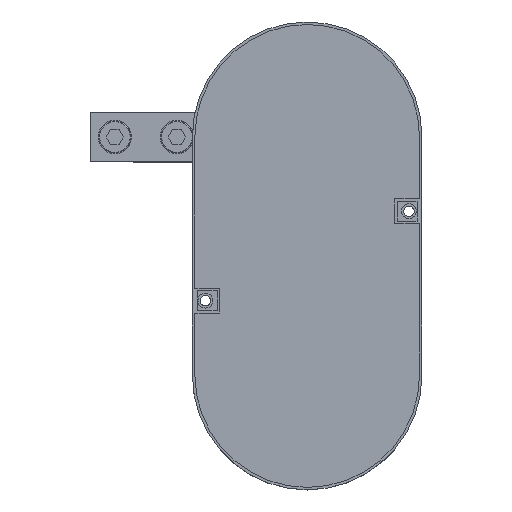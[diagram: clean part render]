
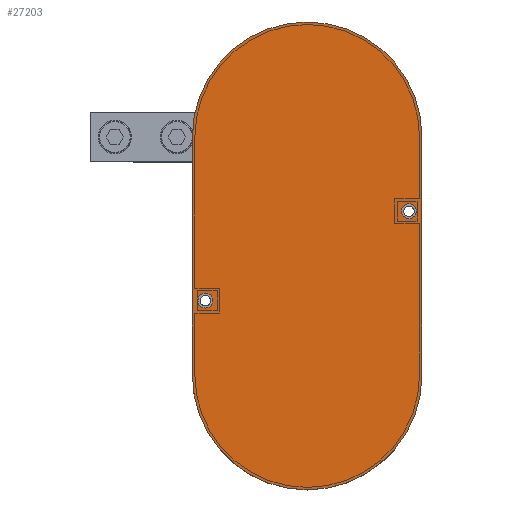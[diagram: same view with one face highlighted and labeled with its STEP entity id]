
A CAD part, top view. The second image highlights one B-rep face of the part: STEP entity #27203.
In plain terms, the highlighted planar face has unit normal (0, 0, 1) as drawn and (0, 0, -1) by its records, which use the part's own axes.
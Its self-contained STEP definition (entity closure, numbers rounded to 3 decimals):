
#126 = AXIS2_PLACEMENT_3D ( 'NONE', #36599, #48271, #25117 ) ;
#349 = CARTESIAN_POINT ( 'NONE',  ( 44., -66., 0. ) ) ;
#1128 = EDGE_CURVE ( 'NONE', #28597, #7319, #44602, .T. ) ;
#2383 = DIRECTION ( 'NONE',  ( -1., 0., 0. ) ) ;
#4582 = DIRECTION ( 'NONE',  ( -1., 0., 0. ) ) ;
#5341 = VECTOR ( 'NONE', #48910, 1000. ) ;
#6307 = CARTESIAN_POINT ( 'NONE',  ( -46.25, 0., 0. ) ) ;
#7319 = VERTEX_POINT ( 'NONE', #349 ) ;
#8380 = ORIENTED_EDGE ( 'NONE', *, *, #10782, .F. ) ;
#8902 = DIRECTION ( 'NONE',  ( 1., 0., 0. ) ) ;
#9100 = ORIENTED_EDGE ( 'NONE', *, *, #1128, .F. ) ;
#9182 = EDGE_CURVE ( 'NONE', #30413, #22470, #34311, .T. ) ;
#9865 = CARTESIAN_POINT ( 'NONE',  ( 46.25, 0., 0. ) ) ;
#10025 = DIRECTION ( 'NONE',  ( 1., 0., 0. ) ) ;
#10507 = EDGE_CURVE ( 'NONE', #45121, #10522, #47467, .T. ) ;
#10522 = VERTEX_POINT ( 'NONE', #22477 ) ;
#10782 = EDGE_CURVE ( 'NONE', #22470, #43534, #18464, .T. ) ;
#12003 = EDGE_CURVE ( 'NONE', #43534, #31425, #48141, .T. ) ;
#13945 = CARTESIAN_POINT ( 'NONE',  ( 38., -66., 0. ) ) ;
#14041 = CARTESIAN_POINT ( 'NONE',  ( 46.25, -96., 0. ) ) ;
#14697 = CARTESIAN_POINT ( 'NONE',  ( -41., -30., 0. ) ) ;
#15695 = DIRECTION ( 'NONE',  ( -1., 0., 0. ) ) ;
#15941 = ORIENTED_EDGE ( 'NONE', *, *, #33989, .F. ) ;
#16105 = EDGE_LOOP ( 'NONE', ( #25413, #24929, #8380, #23669 ) ) ;
#16266 = CARTESIAN_POINT ( 'NONE',  ( 0., -96., 0. ) ) ;
#17162 = CIRCLE ( 'NONE', #126, 46.25 ) ;
#17879 = CARTESIAN_POINT ( 'NONE',  ( 0., 0., 0. ) ) ;
#18267 = CARTESIAN_POINT ( 'NONE',  ( -41., -30., 0. ) ) ;
#18464 = CIRCLE ( 'NONE', #42106, 46.25 ) ;
#18472 = DIRECTION ( 'NONE',  ( -1., 0., 0. ) ) ;
#18719 = EDGE_LOOP ( 'NONE', ( #15941, #27342 ) ) ;
#18926 = FACE_BOUND ( 'NONE', #18719, .T. ) ;
#21741 = PLANE ( 'NONE',  #49035 ) ;
#22470 = VERTEX_POINT ( 'NONE', #47871 ) ;
#22477 = CARTESIAN_POINT ( 'NONE',  ( -44., -30., 0. ) ) ;
#22922 = DIRECTION ( 'NONE',  ( 0., 0., -1. ) ) ;
#23669 = ORIENTED_EDGE ( 'NONE', *, *, #9182, .F. ) ;
#24202 = EDGE_CURVE ( 'NONE', #7319, #28597, #49438, .T. ) ;
#24627 = CARTESIAN_POINT ( 'NONE',  ( 46.25, -96., 0. ) ) ;
#24929 = ORIENTED_EDGE ( 'NONE', *, *, #12003, .F. ) ;
#24993 = DIRECTION ( 'NONE',  ( 0., 0., -1. ) ) ;
#25117 = DIRECTION ( 'NONE',  ( 1., 0., 0. ) ) ;
#25413 = ORIENTED_EDGE ( 'NONE', *, *, #26992, .F. ) ;
#26715 = DIRECTION ( 'NONE',  ( 0., 0., -1. ) ) ;
#26992 = EDGE_CURVE ( 'NONE', #31425, #30413, #17162, .T. ) ;
#27203 = ADVANCED_FACE ( 'NONE', ( #18926, #48551, #31606 ), #21741, .F. ) ;
#27342 = ORIENTED_EDGE ( 'NONE', *, *, #10507, .F. ) ;
#28328 = AXIS2_PLACEMENT_3D ( 'NONE', #18267, #22922, #15695 ) ;
#28597 = VERTEX_POINT ( 'NONE', #13945 ) ;
#28715 = CARTESIAN_POINT ( 'NONE',  ( 41., -66., 0. ) ) ;
#29644 = CARTESIAN_POINT ( 'NONE',  ( -46.25, 0., 0. ) ) ;
#30413 = VERTEX_POINT ( 'NONE', #29644 ) ;
#31425 = VERTEX_POINT ( 'NONE', #9865 ) ;
#31606 = FACE_OUTER_BOUND ( 'NONE', #16105, .T. ) ;
#32123 = DIRECTION ( 'NONE',  ( 0., 0., -1. ) ) ;
#32629 = AXIS2_PLACEMENT_3D ( 'NONE', #28715, #24993, #2383 ) ;
#33228 = DIRECTION ( 'NONE',  ( 0., 0., 1. ) ) ;
#33989 = EDGE_CURVE ( 'NONE', #10522, #45121, #45832, .T. ) ;
#34311 = LINE ( 'NONE', #6307, #5341 ) ;
#35586 = ORIENTED_EDGE ( 'NONE', *, *, #24202, .F. ) ;
#36398 = CARTESIAN_POINT ( 'NONE',  ( -38., -30., 0. ) ) ;
#36599 = CARTESIAN_POINT ( 'NONE',  ( 0., 0., 0. ) ) ;
#37904 = AXIS2_PLACEMENT_3D ( 'NONE', #14697, #26715, #18472 ) ;
#41497 = AXIS2_PLACEMENT_3D ( 'NONE', #47006, #32123, #4582 ) ;
#42106 = AXIS2_PLACEMENT_3D ( 'NONE', #16266, #43094, #8902 ) ;
#43094 = DIRECTION ( 'NONE',  ( 0., 0., 1. ) ) ;
#43534 = VERTEX_POINT ( 'NONE', #24627 ) ;
#44476 = VECTOR ( 'NONE', #48196, 1000. ) ;
#44602 = CIRCLE ( 'NONE', #32629, 3. ) ;
#45121 = VERTEX_POINT ( 'NONE', #36398 ) ;
#45832 = CIRCLE ( 'NONE', #28328, 3. ) ;
#47006 = CARTESIAN_POINT ( 'NONE',  ( 41., -66., 0. ) ) ;
#47467 = CIRCLE ( 'NONE', #37904, 3. ) ;
#47871 = CARTESIAN_POINT ( 'NONE',  ( -46.25, -96., 0. ) ) ;
#48141 = LINE ( 'NONE', #14041, #44476 ) ;
#48196 = DIRECTION ( 'NONE',  ( 0., 1., 0. ) ) ;
#48271 = DIRECTION ( 'NONE',  ( 0., 0., 1. ) ) ;
#48551 = FACE_BOUND ( 'NONE', #49562, .T. ) ;
#48910 = DIRECTION ( 'NONE',  ( 0., -1., 0. ) ) ;
#49035 = AXIS2_PLACEMENT_3D ( 'NONE', #17879, #33228, #10025 ) ;
#49438 = CIRCLE ( 'NONE', #41497, 3. ) ;
#49562 = EDGE_LOOP ( 'NONE', ( #9100, #35586 ) ) ;
